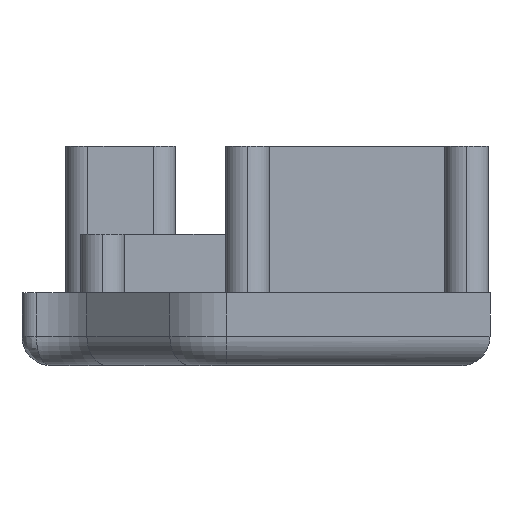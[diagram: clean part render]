
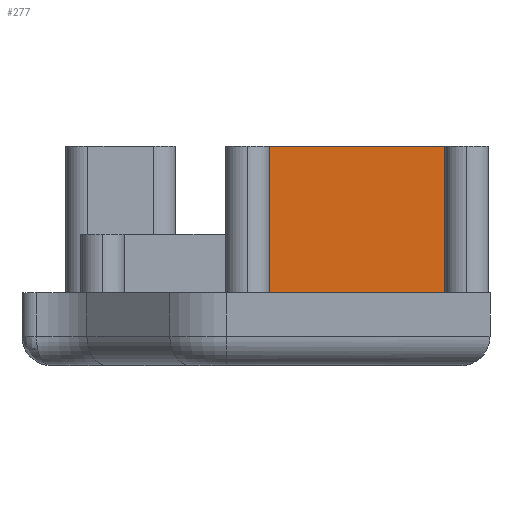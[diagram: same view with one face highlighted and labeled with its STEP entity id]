
A CAD part, left-side view. The second image highlights one B-rep face of the part: STEP entity #277.
In plain terms, the highlighted planar face has unit normal (-1, 0, 0).
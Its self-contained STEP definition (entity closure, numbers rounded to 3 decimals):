
#3 = DIRECTION ( 'NONE',  ( 0., -1., 0. ) ) ;
#24 = ORIENTED_EDGE ( 'NONE', *, *, #2503, .T. ) ;
#54 = CARTESIAN_POINT ( 'NONE',  ( -32.5, -28.9, 5. ) ) ;
#123 = VECTOR ( 'NONE', #2641, 1000. ) ;
#134 = DIRECTION ( 'NONE',  ( 0., 0., -1. ) ) ;
#193 = LINE ( 'NONE', #688, #2554 ) ;
#277 = ADVANCED_FACE ( 'NONE', ( #2694 ), #1165, .F. ) ;
#283 = VERTEX_POINT ( 'NONE', #54 ) ;
#583 = AXIS2_PLACEMENT_3D ( 'NONE', #1631, #2281, #1846 ) ;
#688 = CARTESIAN_POINT ( 'NONE',  ( -32.5, -28.9, 15. ) ) ;
#1139 = VERTEX_POINT ( 'NONE', #2172 ) ;
#1165 = PLANE ( 'NONE',  #583 ) ;
#1178 = ORIENTED_EDGE ( 'NONE', *, *, #1261, .F. ) ;
#1261 = EDGE_CURVE ( 'NONE', #1139, #2224, #2257, .T. ) ;
#1406 = CARTESIAN_POINT ( 'NONE',  ( -32.5, -16.9, 5. ) ) ;
#1440 = EDGE_CURVE ( 'NONE', #2224, #283, #193, .T. ) ;
#1496 = ORIENTED_EDGE ( 'NONE', *, *, #1440, .F. ) ;
#1503 = EDGE_CURVE ( 'NONE', #1789, #283, #2793, .T. ) ;
#1631 = CARTESIAN_POINT ( 'NONE',  ( -32.5, -28.9, 15. ) ) ;
#1690 = VECTOR ( 'NONE', #3, 1000. ) ;
#1789 = VERTEX_POINT ( 'NONE', #1406 ) ;
#1846 = DIRECTION ( 'NONE',  ( 0., 0., -1. ) ) ;
#1995 = CARTESIAN_POINT ( 'NONE',  ( -32.5, -28.9, 15. ) ) ;
#1996 = EDGE_LOOP ( 'NONE', ( #2282, #1496, #1178, #24 ) ) ;
#2019 = DIRECTION ( 'NONE',  ( 0., 0., -1. ) ) ;
#2172 = CARTESIAN_POINT ( 'NONE',  ( -32.5, -16.9, 15. ) ) ;
#2224 = VERTEX_POINT ( 'NONE', #2452 ) ;
#2257 = LINE ( 'NONE', #1995, #123 ) ;
#2281 = DIRECTION ( 'NONE',  ( 1., 0., 0. ) ) ;
#2282 = ORIENTED_EDGE ( 'NONE', *, *, #1503, .T. ) ;
#2452 = CARTESIAN_POINT ( 'NONE',  ( -32.5, -28.9, 15. ) ) ;
#2469 = CARTESIAN_POINT ( 'NONE',  ( -32.5, -28.9, 5. ) ) ;
#2503 = EDGE_CURVE ( 'NONE', #1139, #1789, #2735, .T. ) ;
#2554 = VECTOR ( 'NONE', #2019, 1000. ) ;
#2641 = DIRECTION ( 'NONE',  ( 0., -1., 0. ) ) ;
#2694 = FACE_OUTER_BOUND ( 'NONE', #1996, .T. ) ;
#2735 = LINE ( 'NONE', #2787, #2835 ) ;
#2787 = CARTESIAN_POINT ( 'NONE',  ( -32.5, -16.9, 15. ) ) ;
#2793 = LINE ( 'NONE', #2469, #1690 ) ;
#2835 = VECTOR ( 'NONE', #134, 1000. ) ;
